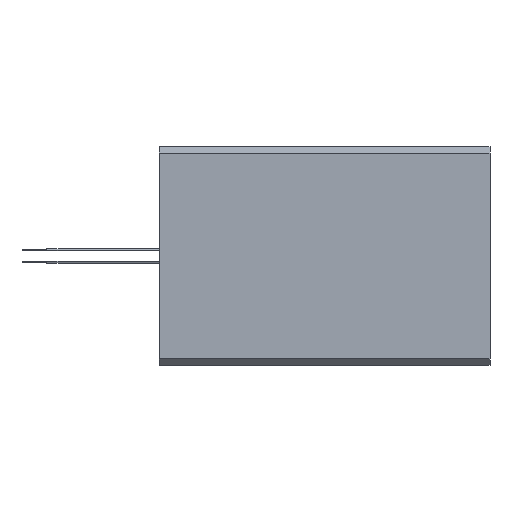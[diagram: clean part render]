
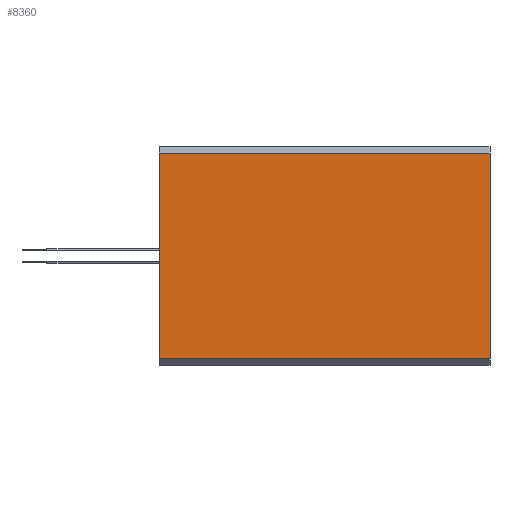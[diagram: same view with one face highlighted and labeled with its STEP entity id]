
A CAD part, front view. The second image highlights one B-rep face of the part: STEP entity #8360.
In plain terms, the highlighted planar face has unit normal (0, -1, 0).
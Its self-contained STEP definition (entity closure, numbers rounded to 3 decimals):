
#3 = CARTESIAN_POINT ( 'NONE',  ( 53., -17.5, -16.5 ) ) ;
#278 = ORIENTED_EDGE ( 'NONE', *, *, #2523, .T. ) ;
#484 = CARTESIAN_POINT ( 'NONE',  ( 53., -17.5, 17.5 ) ) ;
#643 = LINE ( 'NONE', #8980, #8142 ) ;
#656 = LINE ( 'NONE', #484, #2391 ) ;
#799 = CARTESIAN_POINT ( 'NONE',  ( 53., -17.5, 16.5 ) ) ;
#1094 = ORIENTED_EDGE ( 'NONE', *, *, #1144, .T. ) ;
#1144 = EDGE_CURVE ( 'NONE', #5886, #3698, #1359, .T. ) ;
#1214 = CARTESIAN_POINT ( 'NONE',  ( 0., -17.5, -16.5 ) ) ;
#1359 = LINE ( 'NONE', #3072, #8857 ) ;
#1463 = EDGE_CURVE ( 'NONE', #7204, #9374, #656, .T. ) ;
#1496 = DIRECTION ( 'NONE',  ( -1., 0., 0. ) ) ;
#2022 = FACE_OUTER_BOUND ( 'NONE', #6633, .T. ) ;
#2365 = PLANE ( 'NONE',  #5120 ) ;
#2391 = VECTOR ( 'NONE', #4897, 1000. ) ;
#2523 = EDGE_CURVE ( 'NONE', #7204, #5886, #5548, .T. ) ;
#3072 = CARTESIAN_POINT ( 'NONE',  ( 0., -17.5, 17.5 ) ) ;
#3400 = ORIENTED_EDGE ( 'NONE', *, *, #8478, .T. ) ;
#3698 = VERTEX_POINT ( 'NONE', #1214 ) ;
#3705 = CARTESIAN_POINT ( 'NONE',  ( 53., -17.5, 16.5 ) ) ;
#3847 = DIRECTION ( 'NONE',  ( 0., 1., 0. ) ) ;
#4897 = DIRECTION ( 'NONE',  ( 0., 0., -1. ) ) ;
#5120 = AXIS2_PLACEMENT_3D ( 'NONE', #8169, #3847, #8912 ) ;
#5548 = LINE ( 'NONE', #799, #9368 ) ;
#5886 = VERTEX_POINT ( 'NONE', #6625 ) ;
#6625 = CARTESIAN_POINT ( 'NONE',  ( 0., -17.5, 16.5 ) ) ;
#6633 = EDGE_LOOP ( 'NONE', ( #1094, #3400, #8469, #278 ) ) ;
#7204 = VERTEX_POINT ( 'NONE', #3705 ) ;
#7358 = DIRECTION ( 'NONE',  ( 0., 0., -1. ) ) ;
#8142 = VECTOR ( 'NONE', #8269, 1000. ) ;
#8169 = CARTESIAN_POINT ( 'NONE',  ( 53., -17.5, 17.5 ) ) ;
#8269 = DIRECTION ( 'NONE',  ( 1., 0., 0. ) ) ;
#8360 = ADVANCED_FACE ( 'NONE', ( #2022 ), #2365, .F. ) ;
#8469 = ORIENTED_EDGE ( 'NONE', *, *, #1463, .F. ) ;
#8478 = EDGE_CURVE ( 'NONE', #3698, #9374, #643, .T. ) ;
#8857 = VECTOR ( 'NONE', #7358, 1000. ) ;
#8912 = DIRECTION ( 'NONE',  ( 0., 0., 1. ) ) ;
#8980 = CARTESIAN_POINT ( 'NONE',  ( 53., -17.5, -16.5 ) ) ;
#9368 = VECTOR ( 'NONE', #1496, 1000. ) ;
#9374 = VERTEX_POINT ( 'NONE', #3 ) ;
